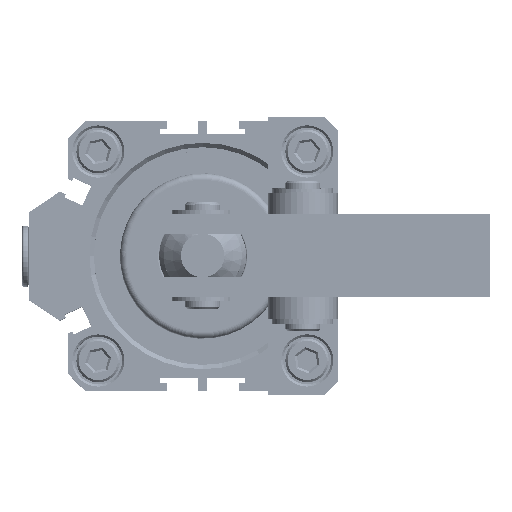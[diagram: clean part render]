
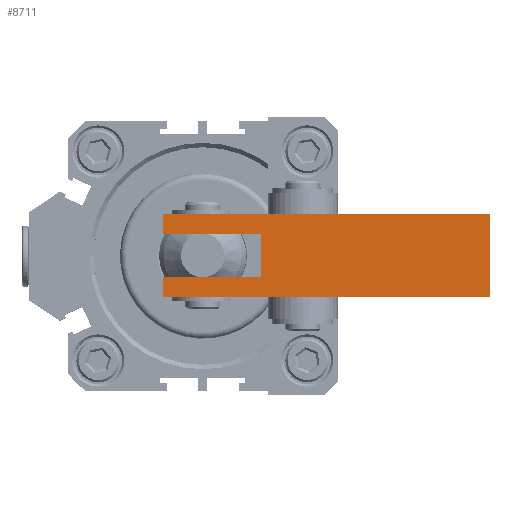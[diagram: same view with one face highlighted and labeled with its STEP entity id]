
A CAD part, top view. The second image highlights one B-rep face of the part: STEP entity #8711.
In plain terms, the highlighted planar face has unit normal (0, 0, 1).
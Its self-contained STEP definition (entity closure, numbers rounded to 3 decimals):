
#622=PLANE('',#9589);
#827=LINE('',#13270,#1415);
#830=LINE('',#13276,#1418);
#833=LINE('',#13282,#1421);
#836=LINE('',#13288,#1424);
#839=LINE('',#13294,#1427);
#843=LINE('',#13302,#1431);
#845=LINE('',#13306,#1433);
#846=LINE('',#13307,#1434);
#1415=VECTOR('',#10775,1000.);
#1418=VECTOR('',#10780,1000.);
#1421=VECTOR('',#10785,1000.);
#1424=VECTOR('',#10790,1000.);
#1427=VECTOR('',#10795,1000.);
#1431=VECTOR('',#10801,1000.);
#1433=VECTOR('',#10805,1000.);
#1434=VECTOR('',#10806,1000.);
#2240=FACE_OUTER_BOUND('',#2741,.T.);
#2741=EDGE_LOOP('',(#6278,#6279,#6280,#6281,#6282,#6283,#6284,#6285));
#3809=VERTEX_POINT('',#13267);
#3810=VERTEX_POINT('',#13269);
#3812=VERTEX_POINT('',#13275);
#3814=VERTEX_POINT('',#13281);
#3816=VERTEX_POINT('',#13287);
#3818=VERTEX_POINT('',#13293);
#3821=VERTEX_POINT('',#13300);
#3822=VERTEX_POINT('',#13305);
#4775=EDGE_CURVE('',#3809,#3810,#827,.T.);
#4778=EDGE_CURVE('',#3810,#3812,#830,.T.);
#4781=EDGE_CURVE('',#3812,#3814,#833,.T.);
#4784=EDGE_CURVE('',#3814,#3816,#836,.T.);
#4787=EDGE_CURVE('',#3816,#3818,#839,.T.);
#4791=EDGE_CURVE('',#3821,#3809,#843,.T.);
#4793=EDGE_CURVE('',#3821,#3822,#845,.T.);
#4794=EDGE_CURVE('',#3822,#3818,#846,.T.);
#6278=ORIENTED_EDGE('',*,*,#4793,.T.);
#6279=ORIENTED_EDGE('',*,*,#4794,.T.);
#6280=ORIENTED_EDGE('',*,*,#4787,.F.);
#6281=ORIENTED_EDGE('',*,*,#4784,.F.);
#6282=ORIENTED_EDGE('',*,*,#4781,.F.);
#6283=ORIENTED_EDGE('',*,*,#4778,.F.);
#6284=ORIENTED_EDGE('',*,*,#4775,.F.);
#6285=ORIENTED_EDGE('',*,*,#4791,.F.);
#8711=ADVANCED_FACE('',(#2240),#622,.F.);
#9589=AXIS2_PLACEMENT_3D('',#13304,#10803,#10804);
#10775=DIRECTION('',(-1.,0.,0.));
#10780=DIRECTION('',(0.,1.,0.));
#10785=DIRECTION('',(1.,0.,0.));
#10790=DIRECTION('',(0.,1.,0.));
#10795=DIRECTION('',(-1.,0.,0.));
#10801=DIRECTION('',(0.,-1.,0.));
#10803=DIRECTION('center_axis',(0.,0.,-1.));
#10804=DIRECTION('ref_axis',(-1.,0.,0.));
#10805=DIRECTION('',(-1.,0.,0.));
#10806=DIRECTION('',(0.,-1.,0.));
#13267=CARTESIAN_POINT('',(79.922,-2.755,115.599));
#13269=CARTESIAN_POINT('',(4.922,-2.755,115.599));
#13270=CARTESIAN_POINT('',(79.922,-2.755,115.599));
#13275=CARTESIAN_POINT('',(4.922,1.745,115.599));
#13276=CARTESIAN_POINT('',(4.922,-2.755,115.599));
#13281=CARTESIAN_POINT('',(27.422,1.745,115.599));
#13282=CARTESIAN_POINT('',(79.922,1.745,115.599));
#13287=CARTESIAN_POINT('',(27.422,11.745,115.599));
#13288=CARTESIAN_POINT('',(27.422,-2.755,115.599));
#13293=CARTESIAN_POINT('',(4.922,11.745,115.599));
#13294=CARTESIAN_POINT('',(79.922,11.745,115.599));
#13300=CARTESIAN_POINT('',(79.922,16.245,115.599));
#13302=CARTESIAN_POINT('',(79.922,-2.755,115.599));
#13304=CARTESIAN_POINT('Origin',(79.922,-2.755,115.599));
#13305=CARTESIAN_POINT('',(4.922,16.245,115.599));
#13306=CARTESIAN_POINT('',(4.922,16.245,115.599));
#13307=CARTESIAN_POINT('',(4.922,11.745,115.599));
